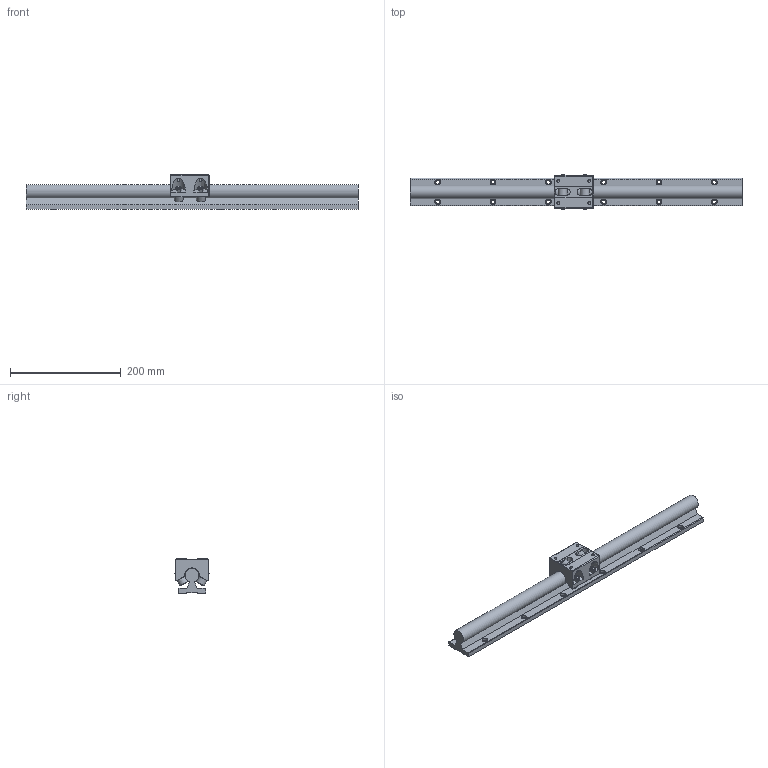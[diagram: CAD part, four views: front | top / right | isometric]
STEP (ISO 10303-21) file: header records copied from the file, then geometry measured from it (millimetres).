
FILE_DESCRIPTION((''),'2;1');
FILE_NAME('D:\製品 (図面)\カタログ用3D\リニアガイド関連\STEP形式\RGB\RGB25.stp','2010-06-02T16:53:33',('Tsuchiya'),(''),'Autodesk Inventor 10','Autodesk Inventor 10','');
FILE_SCHEMA(('AUTOMOTIVE_DESIGN { 1 0 10303 214 1 1 1 1 }'));
Length unit declared in the file: millimetre
Products named in the file (3): RGB25; RGB251; RGB252
Assembly tree (2 placements, depth 2):
  RGB25
    RGB251
    RGB252
Bounding box: 600 x 63.17 x 62 mm (x, y, z)
Volume: 759221.3 mm3; surface area: 147484 mm2
Topology: 2 solids, 2 shells, 209 faces, 457 edges, 296 vertices
Faces by surface type: bspline 102, plane 65, cylinder 26, cone 16
Full cylindrical faces by diameter (mm): 4.917 x2, 5 x4, 6 x4, 12 x2, 16 x3
Entity records: 6590 total; most frequent: CARTESIAN_POINT 2539, ORIENTED_EDGE 770, DIRECTION 711, EDGE_CURVE 385, EDGE_LOOP 347, VERTEX_POINT 286, AXIS2_PLACEMENT_3D 270, FACE_OUTER_BOUND 209
